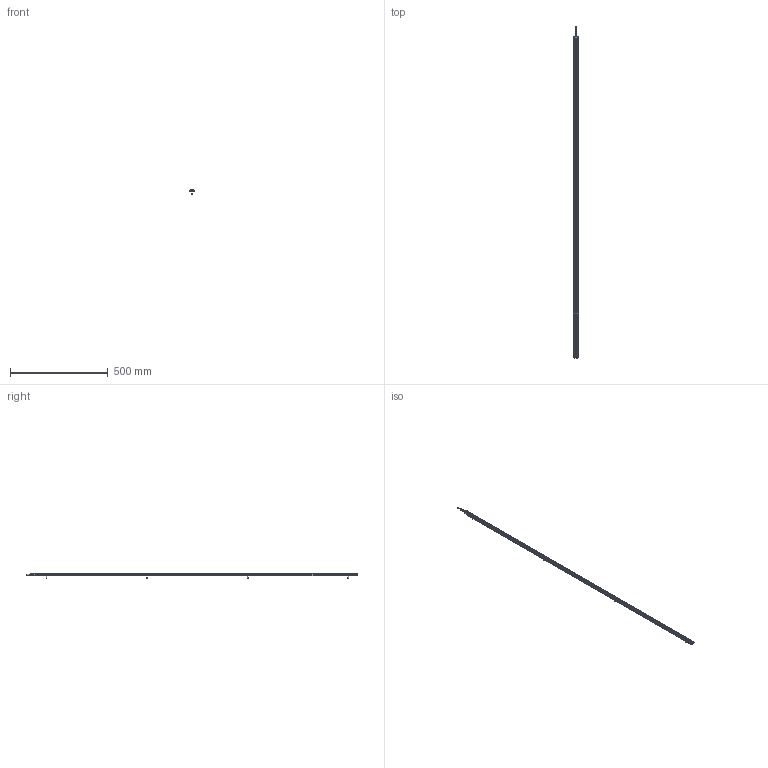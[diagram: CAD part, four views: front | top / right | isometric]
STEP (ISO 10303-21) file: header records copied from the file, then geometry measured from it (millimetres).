
FILE_DESCRIPTION (( 'STEP AP214' ), '1' );
FILE_NAME ('ILGA-B-K2-1640mm.STEP', '2026-04-24T22:56:31', ( '' ), ( '' ), 'SwSTEP 2.0', 'SolidWorks 2025', '' );
FILE_SCHEMA (( 'AUTOMOTIVE_DESIGN' ));
Length unit declared in the file: millimetre
Products named in the file (1): ILGA-B-K2-1640mm
Bounding box: 22.4 x 1694.5 x 25.7 mm (x, y, z)
Surface area: 224944.7 mm2 (no closed solid volume)
Topology: 0 solids, 17 shells, 975 faces, 2532 edges, 1571 vertices
Faces by surface type: cylinder 403, plane 364, cone 86, bspline 56, torus 50, sphere 16
Entity records: 42888 total; most frequent: CARTESIAN_POINT 8692, ORIENTED_EDGE 4945, DIRECTION 4896, EDGE_CURVE 2480, AXIS2_PLACEMENT_3D 1879, VERTEX_POINT 1571, VECTOR 1138, LINE 1138
